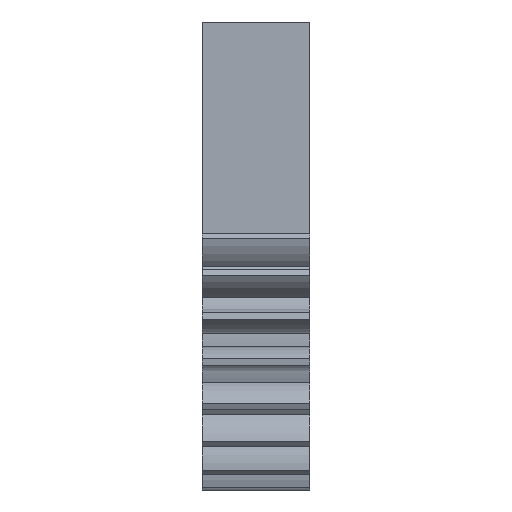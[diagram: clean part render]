
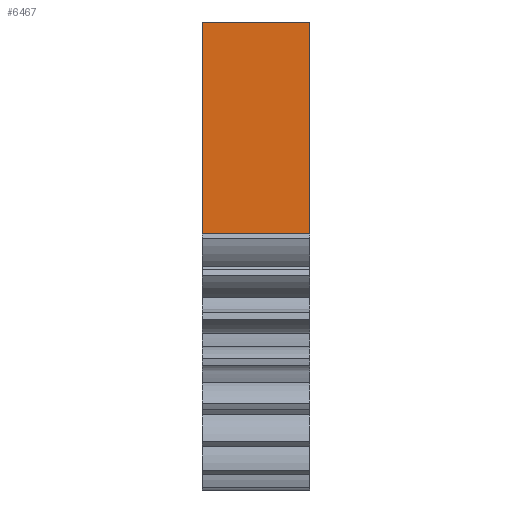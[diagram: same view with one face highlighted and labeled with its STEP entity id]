
A CAD part, top view. The second image highlights one B-rep face of the part: STEP entity #6467.
In plain terms, the highlighted planar face has unit normal (0, 0, 1).
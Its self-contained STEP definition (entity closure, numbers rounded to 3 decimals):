
#32 = PLANE('',#33);
#33 = AXIS2_PLACEMENT_3D('',#34,#35,#36);
#34 = CARTESIAN_POINT('',(-5.,54.166,-6.));
#35 = DIRECTION('',(1.,0.,0.));
#36 = DIRECTION('',(0.,0.61,0.792));
#2171 = VERTEX_POINT('',#2172);
#2172 = CARTESIAN_POINT('',(-5.,59.195,
    -3.26));
#2186 = PLANE('',#2187);
#2187 = AXIS2_PLACEMENT_3D('',#2188,#2189,#2190);
#2188 = CARTESIAN_POINT('',(-15.,59.195,
    -3.26));
#2189 = DIRECTION('',(0.,-0.558,0.83
    ));
#2190 = DIRECTION('',(0.,0.83,0.558)
  );
#2198 = EDGE_CURVE('',#2199,#2171,#2201,.T.);
#2199 = VERTEX_POINT('',#2200);
#2200 = CARTESIAN_POINT('',(-5.,84.165,
    -3.26));
#2201 = SURFACE_CURVE('',#2202,(#2206,#2213),.PCURVE_S1.);
#2202 = LINE('',#2203,#2204);
#2203 = CARTESIAN_POINT('',(-5.,84.165,
    -3.26));
#2204 = VECTOR('',#2205,1.);
#2205 = DIRECTION('',(0.,-1.,0.));
#2206 = PCURVE('',#32,#2207);
#2207 = DEFINITIONAL_REPRESENTATION('',(#2208),#2212);
#2208 = LINE('',#2209,#2210);
#2209 = CARTESIAN_POINT('',(20.483,-22.088));
#2210 = VECTOR('',#2211,1.);
#2211 = DIRECTION('',(-0.61,0.792));
#2212 = ( GEOMETRIC_REPRESENTATION_CONTEXT(2) 
PARAMETRIC_REPRESENTATION_CONTEXT() REPRESENTATION_CONTEXT('2D SPACE',''
  ) );
#2213 = PCURVE('',#2214,#2219);
#2214 = PLANE('',#2215);
#2215 = AXIS2_PLACEMENT_3D('',#2216,#2217,#2218);
#2216 = CARTESIAN_POINT('',(5.,84.165,
    -3.26));
#2217 = DIRECTION('',(0.,0.,-1.));
#2218 = DIRECTION('',(0.,-1.,0.));
#2219 = DEFINITIONAL_REPRESENTATION('',(#2220),#2224);
#2220 = LINE('',#2221,#2222);
#2221 = CARTESIAN_POINT('',(0.,10.));
#2222 = VECTOR('',#2223,1.);
#2223 = DIRECTION('',(1.,0.));
#2224 = ( GEOMETRIC_REPRESENTATION_CONTEXT(2) 
PARAMETRIC_REPRESENTATION_CONTEXT() REPRESENTATION_CONTEXT('2D SPACE',''
  ) );
#2240 = PLANE('',#2241);
#2241 = AXIS2_PLACEMENT_3D('',#2242,#2243,#2244);
#2242 = CARTESIAN_POINT('',(1.057,84.165,
    -7.591));
#2243 = DIRECTION('',(0.,1.,0.));
#2244 = DIRECTION('',(-1.,0.,0.));
#2301 = PLANE('',#2302);
#2302 = AXIS2_PLACEMENT_3D('',#2303,#2304,#2305);
#2303 = CARTESIAN_POINT('',(5.,54.166,-6.));
#2304 = DIRECTION('',(-1.,0.,0.));
#2305 = DIRECTION('',(0.,-0.61,
    -0.792));
#2344 = VERTEX_POINT('',#2345);
#2345 = CARTESIAN_POINT('',(5.,84.165,
    -3.26));
#2366 = EDGE_CURVE('',#2344,#2367,#2369,.T.);
#2367 = VERTEX_POINT('',#2368);
#2368 = CARTESIAN_POINT('',(5.,59.195,
    -3.26));
#2369 = SURFACE_CURVE('',#2370,(#2374,#2381),.PCURVE_S1.);
#2370 = LINE('',#2371,#2372);
#2371 = CARTESIAN_POINT('',(5.,84.165,
    -3.26));
#2372 = VECTOR('',#2373,1.);
#2373 = DIRECTION('',(0.,-1.,0.));
#2374 = PCURVE('',#2301,#2375);
#2375 = DEFINITIONAL_REPRESENTATION('',(#2376),#2380);
#2376 = LINE('',#2377,#2378);
#2377 = CARTESIAN_POINT('',(-20.483,-22.088));
#2378 = VECTOR('',#2379,1.);
#2379 = DIRECTION('',(0.61,0.792));
#2380 = ( GEOMETRIC_REPRESENTATION_CONTEXT(2) 
PARAMETRIC_REPRESENTATION_CONTEXT() REPRESENTATION_CONTEXT('2D SPACE',''
  ) );
#2381 = PCURVE('',#2214,#2382);
#2382 = DEFINITIONAL_REPRESENTATION('',(#2383),#2387);
#2383 = LINE('',#2384,#2385);
#2384 = CARTESIAN_POINT('',(0.,0.));
#2385 = VECTOR('',#2386,1.);
#2386 = DIRECTION('',(1.,0.));
#2387 = ( GEOMETRIC_REPRESENTATION_CONTEXT(2) 
PARAMETRIC_REPRESENTATION_CONTEXT() REPRESENTATION_CONTEXT('2D SPACE',''
  ) );
#6392 = EDGE_CURVE('',#2171,#2367,#6393,.T.);
#6393 = SURFACE_CURVE('',#6394,(#6398,#6405),.PCURVE_S1.);
#6394 = LINE('',#6395,#6396);
#6395 = CARTESIAN_POINT('',(-15.,59.195,
    -3.26));
#6396 = VECTOR('',#6397,1.);
#6397 = DIRECTION('',(1.,0.,0.));
#6398 = PCURVE('',#2186,#6399);
#6399 = DEFINITIONAL_REPRESENTATION('',(#6400),#6404);
#6400 = LINE('',#6401,#6402);
#6401 = CARTESIAN_POINT('',(0.,0.));
#6402 = VECTOR('',#6403,1.);
#6403 = DIRECTION('',(0.,-1.));
#6404 = ( GEOMETRIC_REPRESENTATION_CONTEXT(2) 
PARAMETRIC_REPRESENTATION_CONTEXT() REPRESENTATION_CONTEXT('2D SPACE',''
  ) );
#6405 = PCURVE('',#2214,#6406);
#6406 = DEFINITIONAL_REPRESENTATION('',(#6407),#6411);
#6407 = LINE('',#6408,#6409);
#6408 = CARTESIAN_POINT('',(24.97,20.));
#6409 = VECTOR('',#6410,1.);
#6410 = DIRECTION('',(0.,-1.));
#6411 = ( GEOMETRIC_REPRESENTATION_CONTEXT(2) 
PARAMETRIC_REPRESENTATION_CONTEXT() REPRESENTATION_CONTEXT('2D SPACE',''
  ) );
#6447 = EDGE_CURVE('',#2199,#2344,#6448,.T.);
#6448 = SURFACE_CURVE('',#6449,(#6453,#6460),.PCURVE_S1.);
#6449 = LINE('',#6450,#6451);
#6450 = CARTESIAN_POINT('',(5.,84.165,
    -3.26));
#6451 = VECTOR('',#6452,1.);
#6452 = DIRECTION('',(1.,0.,0.));
#6453 = PCURVE('',#2240,#6454);
#6454 = DEFINITIONAL_REPRESENTATION('',(#6455),#6459);
#6455 = LINE('',#6456,#6457);
#6456 = CARTESIAN_POINT('',(-3.943,4.33));
#6457 = VECTOR('',#6458,1.);
#6458 = DIRECTION('',(-1.,0.));
#6459 = ( GEOMETRIC_REPRESENTATION_CONTEXT(2) 
PARAMETRIC_REPRESENTATION_CONTEXT() REPRESENTATION_CONTEXT('2D SPACE',''
  ) );
#6460 = PCURVE('',#2214,#6461);
#6461 = DEFINITIONAL_REPRESENTATION('',(#6462),#6466);
#6462 = LINE('',#6463,#6464);
#6463 = CARTESIAN_POINT('',(0.,0.));
#6464 = VECTOR('',#6465,1.);
#6465 = DIRECTION('',(0.,-1.));
#6466 = ( GEOMETRIC_REPRESENTATION_CONTEXT(2) 
PARAMETRIC_REPRESENTATION_CONTEXT() REPRESENTATION_CONTEXT('2D SPACE',''
  ) );
#6467 = ADVANCED_FACE('',(#6468),#2214,.F.);
#6468 = FACE_BOUND('',#6469,.T.);
#6469 = EDGE_LOOP('',(#6470,#6471,#6472,#6473));
#6470 = ORIENTED_EDGE('',*,*,#6392,.T.);
#6471 = ORIENTED_EDGE('',*,*,#2366,.F.);
#6472 = ORIENTED_EDGE('',*,*,#6447,.F.);
#6473 = ORIENTED_EDGE('',*,*,#2198,.T.);
